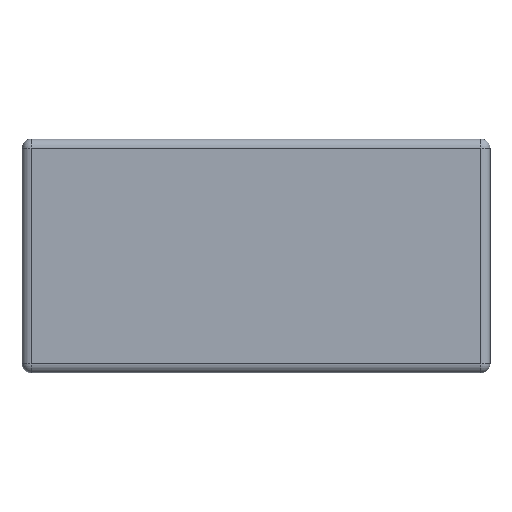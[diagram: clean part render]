
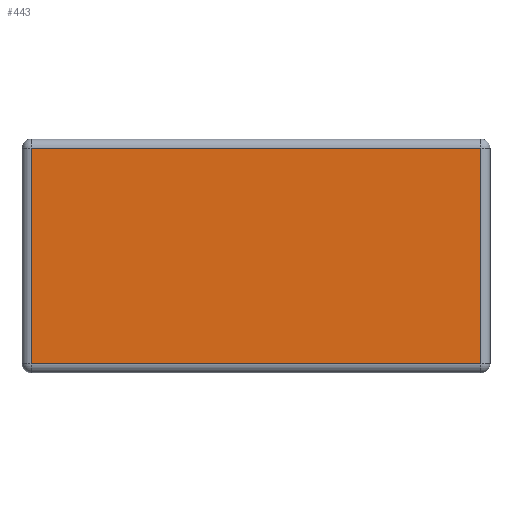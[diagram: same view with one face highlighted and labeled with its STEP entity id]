
A CAD part, front view. The second image highlights one B-rep face of the part: STEP entity #443.
In plain terms, the highlighted planar face has unit normal (0, -1, 0).
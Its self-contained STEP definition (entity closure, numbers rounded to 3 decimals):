
#59=LINE('',#784,#79);
#60=LINE('',#787,#80);
#61=LINE('',#789,#81);
#62=LINE('',#791,#82);
#79=VECTOR('',#617,1000.);
#80=VECTOR('',#618,1000.);
#81=VECTOR('',#619,1000.);
#82=VECTOR('',#620,1000.);
#118=ORIENTED_EDGE('',*,*,#222,.T.);
#119=ORIENTED_EDGE('',*,*,#223,.T.);
#120=ORIENTED_EDGE('',*,*,#224,.T.);
#121=ORIENTED_EDGE('',*,*,#225,.T.);
#222=EDGE_CURVE('',#272,#273,#59,.F.);
#223=EDGE_CURVE('',#273,#274,#60,.F.);
#224=EDGE_CURVE('',#274,#275,#61,.F.);
#225=EDGE_CURVE('',#275,#272,#62,.F.);
#272=VERTEX_POINT('',#785);
#273=VERTEX_POINT('',#786);
#274=VERTEX_POINT('',#788);
#275=VERTEX_POINT('',#790);
#333=EDGE_LOOP('',(#118,#119,#120,#121));
#387=FACE_BOUND('',#333,.T.);
#430=PLANE('',#507);
#443=ADVANCED_FACE('',(#387),#430,.F.);
#507=AXIS2_PLACEMENT_3D('',#783,#615,#616);
#615=DIRECTION('',(0.,1.,0.));
#616=DIRECTION('',(0.,0.,1.));
#617=DIRECTION('',(0.,0.,1.));
#618=DIRECTION('',(-1.,0.,0.));
#619=DIRECTION('',(0.,0.,-1.));
#620=DIRECTION('',(1.,0.,0.));
#783=CARTESIAN_POINT('',(-25.415,0.,4.78));
#784=CARTESIAN_POINT('',(-24.415,0.,4.78));
#785=CARTESIAN_POINT('',(-24.415,0.,3.78));
#786=CARTESIAN_POINT('',(-24.415,0.,-19.62));
#787=CARTESIAN_POINT('',(-25.415,0.,-19.62));
#788=CARTESIAN_POINT('',(24.385,0.,-19.62));
#789=CARTESIAN_POINT('',(24.385,0.,4.78));
#790=CARTESIAN_POINT('',(24.385,0.,3.78));
#791=CARTESIAN_POINT('',(-25.415,0.,3.78));
